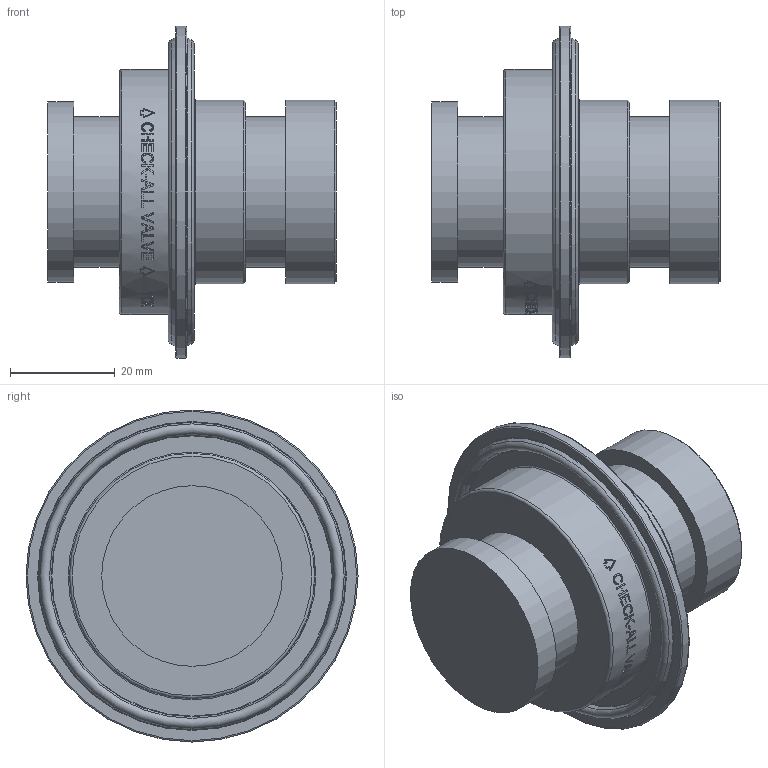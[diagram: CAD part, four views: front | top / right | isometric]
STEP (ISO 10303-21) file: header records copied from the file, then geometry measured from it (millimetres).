
FILE_DESCRIPTION( ( 'Unknown' ), '1' );
FILE_NAME( 'Y:/ENGR/3D Solid Edge Models/TC/Stp/TCK.stp', 'Unknown', ( 'Unknown' ), ( 'Unknown' ), 'PSStep 16.0.42', 'Unknown', ' ' );
FILE_SCHEMA( ( 'AUTOMOTIVE_DESIGN { 1 0 10303 214 1 1 1 1 }' ) );
Length unit declared in the file: millimetre
Products named in the file (1): 1
Bounding box: 55.19 x 63.5 x 63.5 mm (x, y, z)
Volume: 61972.3 mm3; surface area: 14196 mm2
Topology: 1 solids, 1 shells, 226 faces, 566 edges, 374 vertices
Faces by surface type: plane 127, bspline 50, cylinder 30, torus 12, cone 7
Full cylindrical faces by diameter (mm): 28.829 x2, 34.544 x1, 35.052 x2, 46.863 x1, 63.5 x1
Entity records: 11036 total; most frequent: CARTESIAN_POINT 4155, ORIENTED_EDGE 1068, DIRECTION 940, EDGE_CURVE 534, VERTEX_POINT 368, AXIS2_PLACEMENT_3D 351, EDGE_LOOP 284, FACE_OUTER_BOUND 245
